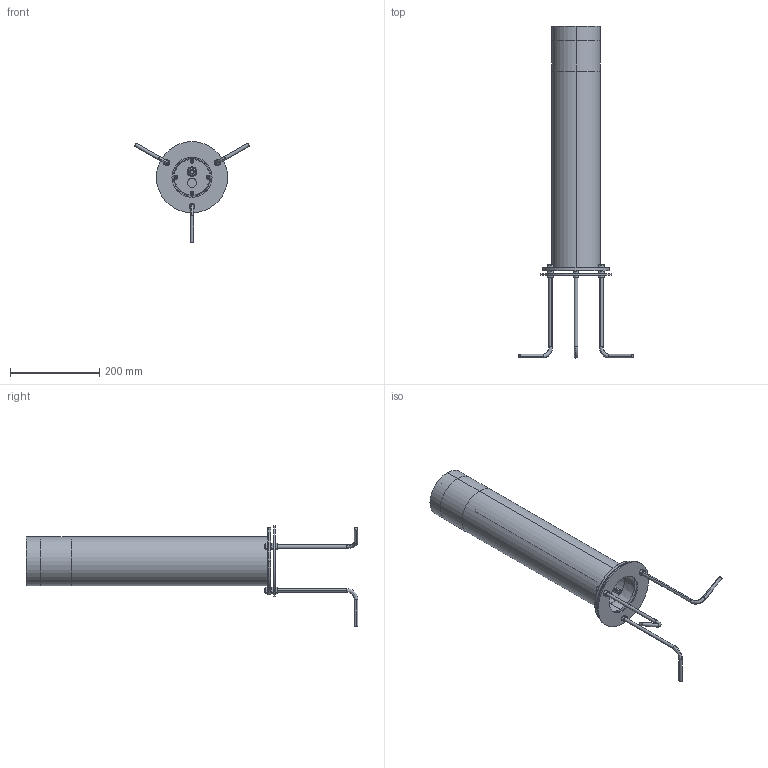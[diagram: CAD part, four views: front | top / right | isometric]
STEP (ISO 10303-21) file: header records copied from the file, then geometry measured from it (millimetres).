
FILE_DESCRIPTION((''),'2;1');
FILE_NAME('D9AH_ASM_16_ASM','2024-09-18T',('C028'),(''),'CREO PARAMETRIC BY PTC INC, 2014190','CREO PARAMETRIC BY PTC INC, 2014190','');
FILE_SCHEMA(('CONFIG_CONTROL_DESIGN'));
Products named in the file (30): 9AD-09GUDINGZUO_6; 9AB-04DUDINGZUOFANGSHUIQUAN_4; 9AB-03DUDINGZUOHOUGAI_4; PAD_1_135_2; FANGUANGSAI-1_1_135_2; FANGSHUISAI_1_135_2; PG9_ASM_1_ASM_135_ASM_2_ASM; PG9_ASM_2_ASM; 9AD-04GUDINGZHU_6; M4X8MM_1_1_1_2_2; M3_20_5_2; 3DJMOZU_6; M3X501_1_6_9; M4X12MM_3_1_1_2_2; 9AE-01KUOSHAIPIAN_3; 9AE_ASM_5_ASM; 9AD-07_300_11; 2AE-02_9; 9AH-03SANREBAN_13; GUANGYUANBAN00_299_2; 9AD-02_2; 9AD-03_3; 9AH-01TOUGUANGZHAO_4; 9AD-01SHANGHAI_14; 9AB_FA_LAN_PAN_56; 9AB-11_4__ANY; M8LUOMU_3__ANY; 9AB-10_5__ANY; 9ABDIZUO_AF5_ASM_333_ASM_1_ANY_ASM; D9AH_ASM_16_ASM
Assembly tree (48 placements, depth 5):
  D9AH_ASM_16_ASM
    9AE_ASM_5_ASM
      9AD-09GUDINGZUO_6
      9AB-04DUDINGZUOFANGSHUIQUAN_4  x2
      9AB-03DUDINGZUOHOUGAI_4
      PG9_ASM_2_ASM
        PG9_ASM_1_ASM_135_ASM_2_ASM
          PAD_1_135_2
          FANGUANGSAI-1_1_135_2
          FANGSHUISAI_1_135_2
      9AD-04GUDINGZHU_6
      M4X8MM_1_1_1_2_2  x4
      M3_20_5_2
      3DJMOZU_6
      M3X501_1_6_9  x3
      M4X12MM_3_1_1_2_2  x4
      9AE-01KUOSHAIPIAN_3
    9AD-07_300_11
    2AE-02_9
    9AH-03SANREBAN_13
    GUANGYUANBAN00_299_2
    9AD-02_2
    9AD-03_3
    9AH-01TOUGUANGZHAO_4
    9AD-01SHANGHAI_14
    9AB_FA_LAN_PAN_56
    9ABDIZUO_AF5_ASM_333_ASM_1_ANY_ASM
      9AB-11_4__ANY  x3
      M8LUOMU_3__ANY  x9
      9AB-10_5__ANY
Bounding box: 257.75 x 745.35 x 226.5 mm (x, y, z)
Volume: 1314996.4 mm3; surface area: 776231.9 mm2
Topology: 44 solids, 44 shells, 2810 faces, 7827 edges, 5192 vertices
Faces by surface type: plane 1511, cylinder 510, cone 316, bspline 220, torus 195, sphere 46, revolution 12
Entity records: 89052 total; most frequent: CARTESIAN_POINT 33216, ORIENTED_EDGE 11908, DIRECTION 11062, EDGE_CURVE 5954, VERTEX_POINT 3985, AXIS2_PLACEMENT_3D 3764, VECTOR 3528, LINE 3528
